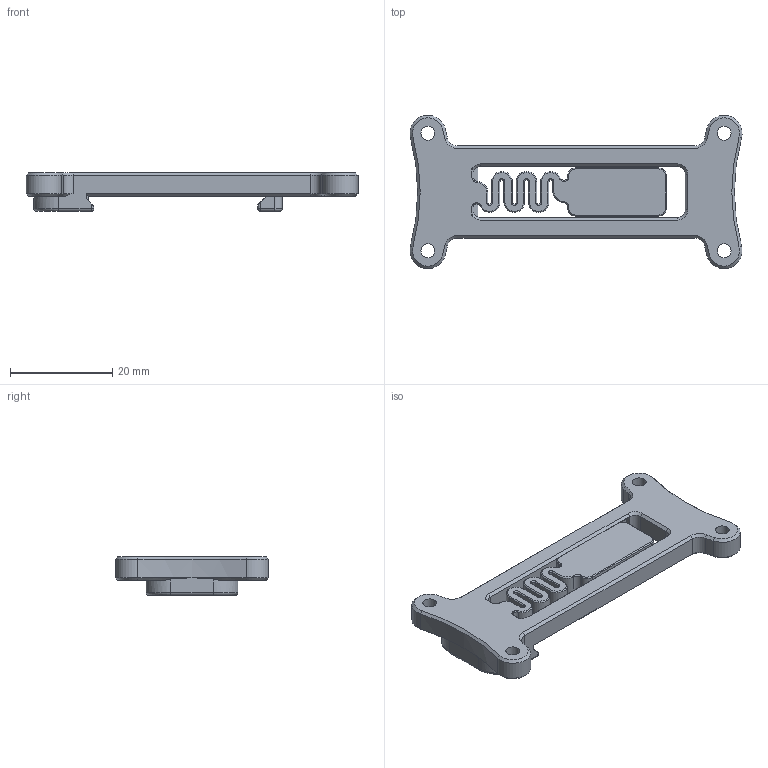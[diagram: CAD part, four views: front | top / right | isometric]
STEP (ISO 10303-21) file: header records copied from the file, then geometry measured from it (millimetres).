
FILE_DESCRIPTION(/* description */ (''),/* implementation_level */ '2;1');
FILE_NAME(/* name */ 'DIN Rail Bracket_Raspberry Pi Zero.step',/* time_stamp */ '2023-12-25T15:14:34-06:00',/* author */ (''),/* organization */ (''),/* preprocessor_version */ 'ST-DEVELOPER v20',/* originating_system */ 'Autodesk Translation Framework v12.14.0.127',/* authorisation */ '');
FILE_SCHEMA (('AUTOMOTIVE_DESIGN { 1 0 10303 214 3 1 1 }'));
Length unit declared in the file: millimetre
Products named in the file (1): DIN Rail Bracket_BTT Pi 1.2
Bounding box: 64.97 x 29.97 x 7.5 mm (x, y, z)
Volume: 5443.6 mm3; surface area: 4561.1 mm2
Topology: 1 solids, 1 shells, 224 faces, 547 edges, 330 vertices
Faces by surface type: plane 93, cylinder 63, cone 60, sphere 4, torus 4
Full cylindrical faces by diameter (mm): 2.7 x4, 4.8 x4
Entity records: 6641 total; most frequent: CARTESIAN_POINT 1223, DIRECTION 1185, ORIENTED_EDGE 1094, EDGE_CURVE 547, AXIS2_PLACEMENT_3D 432, VERTEX_POINT 330, LINE 321, VECTOR 321
